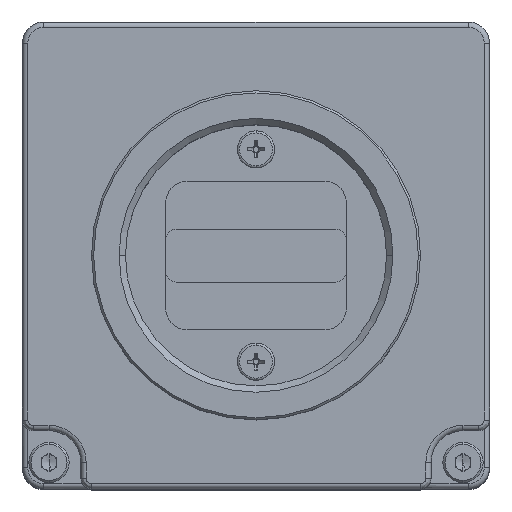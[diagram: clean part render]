
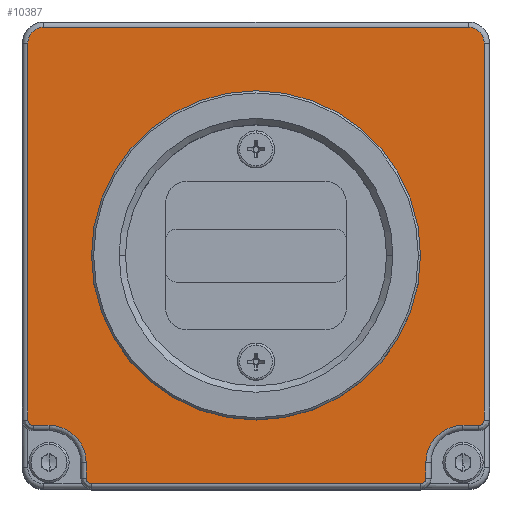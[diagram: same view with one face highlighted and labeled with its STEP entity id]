
A CAD part, top view. The second image highlights one B-rep face of the part: STEP entity #10387.
In plain terms, the highlighted planar face has unit normal (0, 0, 1).
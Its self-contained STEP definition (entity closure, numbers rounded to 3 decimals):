
#69=DIRECTION('',(1.,0.,0.));
#70=VECTOR('',#69,31.);
#71=CARTESIAN_POINT('',(-15.5,-21.5,54.));
#72=LINE('',#71,#70);
#77=CARTESIAN_POINT('',(-20.,20.,54.));
#78=DIRECTION('',(0.,0.,1.));
#79=DIRECTION('',(0.,1.,0.));
#80=AXIS2_PLACEMENT_3D('',#77,#78,#79);
#82=CARTESIAN_POINT('',(20.,20.,54.));
#83=DIRECTION('',(0.,0.,1.));
#84=DIRECTION('',(1.,0.,0.));
#85=AXIS2_PLACEMENT_3D('',#82,#83,#84);
#87=CARTESIAN_POINT('',(21.,-15.5,54.));
#88=DIRECTION('',(0.,0.,1.));
#89=DIRECTION('',(0.,-1.,0.));
#90=AXIS2_PLACEMENT_3D('',#87,#88,#89);
#92=CARTESIAN_POINT('',(19.5,-19.5,54.));
#93=DIRECTION('',(0.,0.,-1.));
#94=DIRECTION('',(-1.,0.,0.));
#95=AXIS2_PLACEMENT_3D('',#92,#93,#94);
#97=CARTESIAN_POINT('',(15.5,-21.,54.));
#98=DIRECTION('',(0.,0.,1.));
#99=DIRECTION('',(0.,-1.,0.));
#100=AXIS2_PLACEMENT_3D('',#97,#98,#99);
#102=CARTESIAN_POINT('',(-15.5,-21.,54.));
#103=DIRECTION('',(0.,0.,1.));
#104=DIRECTION('',(-1.,0.,0.));
#105=AXIS2_PLACEMENT_3D('',#102,#103,#104);
#107=CARTESIAN_POINT('',(-19.5,-19.5,54.));
#108=DIRECTION('',(0.,0.,-1.));
#109=DIRECTION('',(0.,1.,0.));
#110=AXIS2_PLACEMENT_3D('',#107,#108,#109);
#112=CARTESIAN_POINT('',(-21.,-15.5,54.));
#113=DIRECTION('',(0.,0.,1.));
#114=DIRECTION('',(-1.,0.,0.));
#115=AXIS2_PLACEMENT_3D('',#112,#113,#114);
#117=CARTESIAN_POINT('',(0.,0.,54.));
#118=DIRECTION('',(0.,0.,-1.));
#119=DIRECTION('',(-1.,0.,0.));
#120=AXIS2_PLACEMENT_3D('',#117,#118,#119);
#122=CARTESIAN_POINT('',(0.,0.,54.));
#123=DIRECTION('',(0.,0.,-1.));
#124=DIRECTION('',(1.,0.,0.));
#125=AXIS2_PLACEMENT_3D('',#122,#123,#124);
#142=DIRECTION('',(0.,-1.,0.));
#143=VECTOR('',#142,35.5);
#144=CARTESIAN_POINT('',(-21.5,20.,54.));
#145=LINE('',#144,#143);
#165=DIRECTION('',(1.,0.,0.));
#166=VECTOR('',#165,1.5);
#167=CARTESIAN_POINT('',(-21.,-16.,54.));
#168=LINE('',#167,#166);
#188=DIRECTION('',(0.,-1.,0.));
#189=VECTOR('',#188,1.5);
#190=CARTESIAN_POINT('',(-16.,-19.5,54.));
#191=LINE('',#190,#189);
#395=DIRECTION('',(-1.,0.,0.));
#396=VECTOR('',#395,40.);
#397=CARTESIAN_POINT('',(20.,21.5,54.));
#398=LINE('',#397,#396);
#523=DIRECTION('',(0.,1.,0.));
#524=VECTOR('',#523,35.5);
#525=CARTESIAN_POINT('',(21.5,-15.5,54.));
#526=LINE('',#525,#524);
#603=DIRECTION('',(1.,0.,0.));
#604=VECTOR('',#603,1.5);
#605=CARTESIAN_POINT('',(19.5,-16.,54.));
#606=LINE('',#605,#604);
#653=DIRECTION('',(0.,1.,0.));
#654=VECTOR('',#653,1.5);
#655=CARTESIAN_POINT('',(16.,-21.,54.));
#656=LINE('',#655,#654);
#9858=CARTESIAN_POINT('',(21.5,20.,54.));
#9859=CARTESIAN_POINT('',(20.,21.5,54.));
#9860=VERTEX_POINT('',#9858);
#9861=VERTEX_POINT('',#9859);
#9862=CARTESIAN_POINT('',(-20.,21.5,54.));
#9863=CARTESIAN_POINT('',(-21.5,20.,54.));
#9864=VERTEX_POINT('',#9862);
#9865=VERTEX_POINT('',#9863);
#9866=CARTESIAN_POINT('',(21.5,-15.5,54.));
#9867=VERTEX_POINT('',#9866);
#9868=CARTESIAN_POINT('',(21.,-16.,54.));
#9869=VERTEX_POINT('',#9868);
#9870=CARTESIAN_POINT('',(19.5,-16.,54.));
#9871=VERTEX_POINT('',#9870);
#9872=CARTESIAN_POINT('',(16.,-19.5,54.));
#9873=VERTEX_POINT('',#9872);
#9874=CARTESIAN_POINT('',(16.,-21.,54.));
#9875=VERTEX_POINT('',#9874);
#9876=CARTESIAN_POINT('',(15.5,-21.5,54.));
#9877=VERTEX_POINT('',#9876);
#9878=CARTESIAN_POINT('',(-15.5,-21.5,54.));
#9879=VERTEX_POINT('',#9878);
#9880=CARTESIAN_POINT('',(-16.,-21.,54.));
#9881=VERTEX_POINT('',#9880);
#9882=CARTESIAN_POINT('',(-16.,-19.5,54.));
#9883=VERTEX_POINT('',#9882);
#9884=CARTESIAN_POINT('',(-19.5,-16.,54.));
#9885=VERTEX_POINT('',#9884);
#9886=CARTESIAN_POINT('',(-21.,-16.,54.));
#9887=VERTEX_POINT('',#9886);
#9888=CARTESIAN_POINT('',(-21.5,-15.5,54.));
#9889=VERTEX_POINT('',#9888);
#9890=CARTESIAN_POINT('',(-15.5,0.,54.));
#9891=CARTESIAN_POINT('',(15.5,0.,54.));
#9892=VERTEX_POINT('',#9890);
#9893=VERTEX_POINT('',#9891);
#10343=CARTESIAN_POINT('',(0.,0.,54.));
#10344=DIRECTION('',(0.,0.,1.));
#10345=DIRECTION('',(1.,0.,0.));
#10346=AXIS2_PLACEMENT_3D('',#10343,#10344,#10345);
#10347=PLANE('',#10346);
#10349=ORIENTED_EDGE('',*,*,#10348,.F.);
#10351=ORIENTED_EDGE('',*,*,#10350,.F.);
#10353=ORIENTED_EDGE('',*,*,#10352,.F.);
#10355=ORIENTED_EDGE('',*,*,#10354,.F.);
#10357=ORIENTED_EDGE('',*,*,#10356,.F.);
#10359=ORIENTED_EDGE('',*,*,#10358,.F.);
#10361=ORIENTED_EDGE('',*,*,#10360,.F.);
#10363=ORIENTED_EDGE('',*,*,#10362,.F.);
#10365=ORIENTED_EDGE('',*,*,#10364,.F.);
#10366=ORIENTED_EDGE('',*,*,#10326,.F.);
#10368=ORIENTED_EDGE('',*,*,#10367,.F.);
#10370=ORIENTED_EDGE('',*,*,#10369,.F.);
#10372=ORIENTED_EDGE('',*,*,#10371,.F.);
#10374=ORIENTED_EDGE('',*,*,#10373,.F.);
#10376=ORIENTED_EDGE('',*,*,#10375,.F.);
#10378=ORIENTED_EDGE('',*,*,#10377,.F.);
#10379=EDGE_LOOP('',(#10349,#10351,#10353,#10355,#10357,#10359,#10361,#10363,
#10365,#10366,#10368,#10370,#10372,#10374,#10376,#10378));
#10380=FACE_OUTER_BOUND('',#10379,.F.);
#10382=ORIENTED_EDGE('',*,*,#10381,.F.);
#10384=ORIENTED_EDGE('',*,*,#10383,.F.);
#10385=EDGE_LOOP('',(#10382,#10384));
#10386=FACE_BOUND('',#10385,.F.);
#81=CIRCLE('',#80,1.5);
#86=CIRCLE('',#85,1.5);
#91=CIRCLE('',#90,0.5);
#96=CIRCLE('',#95,3.5);
#101=CIRCLE('',#100,0.5);
#106=CIRCLE('',#105,0.5);
#111=CIRCLE('',#110,3.5);
#116=CIRCLE('',#115,0.5);
#121=CIRCLE('',#120,15.5);
#126=CIRCLE('',#125,15.5);
#10326=EDGE_CURVE('',#9879,#9877,#72,.T.);
#10348=EDGE_CURVE('',#9864,#9865,#81,.T.);
#10350=EDGE_CURVE('',#9861,#9864,#398,.T.);
#10352=EDGE_CURVE('',#9860,#9861,#86,.T.);
#10354=EDGE_CURVE('',#9867,#9860,#526,.T.);
#10356=EDGE_CURVE('',#9869,#9867,#91,.T.);
#10358=EDGE_CURVE('',#9871,#9869,#606,.T.);
#10360=EDGE_CURVE('',#9873,#9871,#96,.T.);
#10362=EDGE_CURVE('',#9875,#9873,#656,.T.);
#10364=EDGE_CURVE('',#9877,#9875,#101,.T.);
#10367=EDGE_CURVE('',#9881,#9879,#106,.T.);
#10369=EDGE_CURVE('',#9883,#9881,#191,.T.);
#10371=EDGE_CURVE('',#9885,#9883,#111,.T.);
#10373=EDGE_CURVE('',#9887,#9885,#168,.T.);
#10375=EDGE_CURVE('',#9889,#9887,#116,.T.);
#10377=EDGE_CURVE('',#9865,#9889,#145,.T.);
#10381=EDGE_CURVE('',#9892,#9893,#121,.T.);
#10383=EDGE_CURVE('',#9893,#9892,#126,.T.);
#10387=ADVANCED_FACE('',(#10380,#10386),#10347,.T.);
